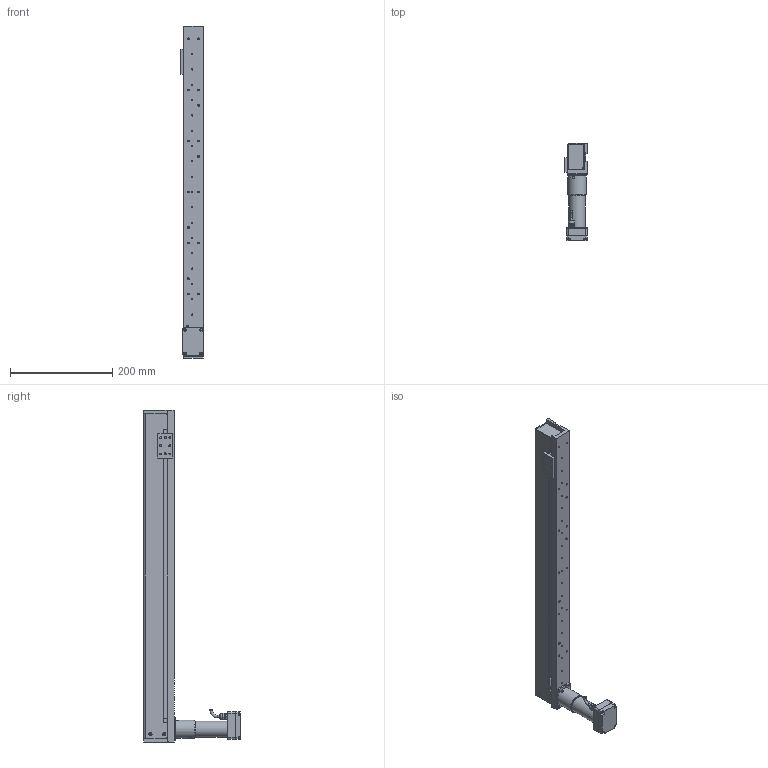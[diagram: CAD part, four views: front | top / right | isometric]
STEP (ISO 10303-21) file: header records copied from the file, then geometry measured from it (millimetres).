
FILE_DESCRIPTION(('FreeCAD Model'),'2;1');
FILE_NAME('F:/FreeCAD - Pomocný/0000-0300 0_17 Linearni aktuator s remenem/LA-BDTP-500.step','2019-08-28T22:52:39',('Author'),(''), 'Open CASCADE STEP processor 7.3','FreeCAD','Unknown');
FILE_SCHEMA(('AUTOMOTIVE_DESIGN { 1 0 10303 214 1 1 1 1 }'));
Length unit declared in the file: millimetre
Products named in the file (16): SESTAVA; Moving; DESKA; Static; MGWR7R_570_H_E1_15; Ulozeni_hnaci_remenice; Revolution; screw_din_7991-m3x8-8_8; Kryt; PRIRUBA; RAM; Doraz1; Doraz2; DRZAK; DRZAK2; 3268BX4CS-CC
Assembly tree (15 placements, depth 4):
  SESTAVA
    Moving
      DESKA
    Static
      MGWR7R_570_H_E1_15
      Ulozeni_hnaci_remenice
        Revolution
      screw_din_7991-m3x8-8_8
      Kryt
      PRIRUBA
      RAM
      Doraz1
      Doraz2
      DRZAK
      DRZAK2
      3268BX4CS-CC
Bounding box: 44 x 189.8 x 650 mm (x, y, z)
Volume: 641559.3 mm3; surface area: 321497.9 mm2
Topology: 12 solids, 12 shells, 754 faces, 1881 edges, 1201 vertices
Faces by surface type: cylinder 349, plane 273, cone 98, torus 15, bspline 11, sphere 8
Full cylindrical faces by diameter (mm): 2.5 x37, 3 x2, 3.3 x50, 3.5 x10, 4 x24, 4.3 x8, 4.5 x2, 5 x3, 5.6 x6, 6 x5, 7.5 x6, 8 x4, 11.5 x2, 16 x6, 19 x4, 29 x1, 31.8 x1, 32 x2, 36 x1
Entity records: 50529 total; most frequent: CARTESIAN_POINT 13439, DIRECTION 7044, LINE 3801, VECTOR 3801, ORIENTED_EDGE 3586, PCURVE 3586, DEFINITIONAL_REPRESENTATION 3586, EDGE_CURVE 1793
